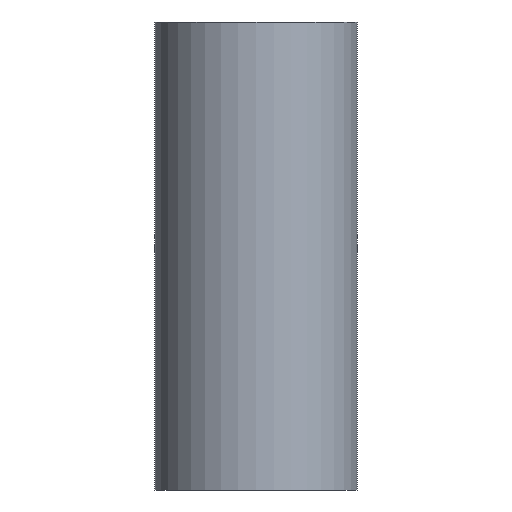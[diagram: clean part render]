
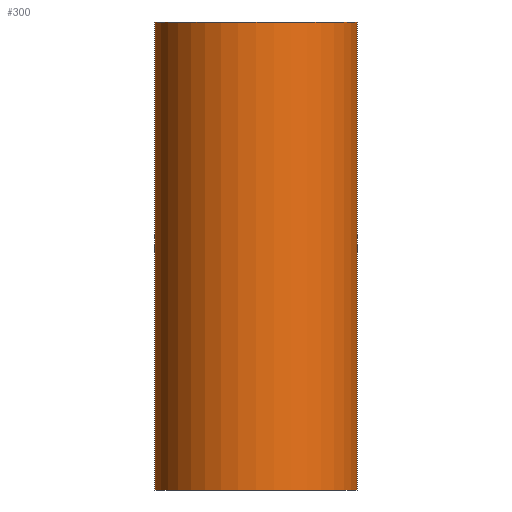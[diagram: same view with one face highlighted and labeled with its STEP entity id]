
A CAD part, front view. The second image highlights one B-rep face of the part: STEP entity #300.
In plain terms, the highlighted cylindrical face has radius 6.5 mm (diameter 13 mm), a partial arc.
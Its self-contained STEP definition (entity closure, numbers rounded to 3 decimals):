
#3 = CARTESIAN_POINT ( 'NONE',  ( 0., 0., 30. ) ) ;
#12 = CARTESIAN_POINT ( 'NONE',  ( 6.5, 0., 30. ) ) ;
#23 = EDGE_LOOP ( 'NONE', ( #207, #227, #27, #46 ) ) ;
#24 = EDGE_CURVE ( 'NONE', #174, #81, #208, .T. ) ;
#27 = ORIENTED_EDGE ( 'NONE', *, *, #97, .T. ) ;
#29 = LINE ( 'NONE', #167, #141 ) ;
#31 = LINE ( 'NONE', #76, #206 ) ;
#32 = FACE_OUTER_BOUND ( 'NONE', #23, .T. ) ;
#43 = CYLINDRICAL_SURFACE ( 'NONE', #146, 6.5 ) ;
#46 = ORIENTED_EDGE ( 'NONE', *, *, #108, .T. ) ;
#76 = CARTESIAN_POINT ( 'NONE',  ( 6.5, 0., 30. ) ) ;
#81 = VERTEX_POINT ( 'NONE', #12 ) ;
#95 = CARTESIAN_POINT ( 'NONE',  ( -6.5, 0., 30. ) ) ;
#97 = EDGE_CURVE ( 'NONE', #174, #127, #29, .T. ) ;
#99 = CARTESIAN_POINT ( 'NONE',  ( 6.5, 0., 0. ) ) ;
#108 = EDGE_CURVE ( 'NONE', #127, #153, #232, .T. ) ;
#119 = DIRECTION ( 'NONE',  ( 0., 0., -1. ) ) ;
#127 = VERTEX_POINT ( 'NONE', #179 ) ;
#131 = EDGE_CURVE ( 'NONE', #81, #153, #31, .T. ) ;
#140 = DIRECTION ( 'NONE',  ( 0., 0., -1. ) ) ;
#141 = VECTOR ( 'NONE', #140, 1000. ) ;
#146 = AXIS2_PLACEMENT_3D ( 'NONE', #3, #301, #287 ) ;
#153 = VERTEX_POINT ( 'NONE', #99 ) ;
#167 = CARTESIAN_POINT ( 'NONE',  ( -6.5, 0., 30. ) ) ;
#174 = VERTEX_POINT ( 'NONE', #95 ) ;
#179 = CARTESIAN_POINT ( 'NONE',  ( -6.5, 0., 0. ) ) ;
#187 = DIRECTION ( 'NONE',  ( 0., 0., 1. ) ) ;
#189 = CARTESIAN_POINT ( 'NONE',  ( 0., 0., 0. ) ) ;
#197 = AXIS2_PLACEMENT_3D ( 'NONE', #189, #187, #253 ) ;
#206 = VECTOR ( 'NONE', #119, 1000. ) ;
#207 = ORIENTED_EDGE ( 'NONE', *, *, #131, .F. ) ;
#208 = CIRCLE ( 'NONE', #257, 6.5 ) ;
#220 = DIRECTION ( 'NONE',  ( 1., 0., 0. ) ) ;
#227 = ORIENTED_EDGE ( 'NONE', *, *, #24, .F. ) ;
#232 = CIRCLE ( 'NONE', #197, 6.5 ) ;
#241 = CARTESIAN_POINT ( 'NONE',  ( 0., 0., 30. ) ) ;
#247 = DIRECTION ( 'NONE',  ( 0., 0., 1. ) ) ;
#253 = DIRECTION ( 'NONE',  ( 1., 0., 0. ) ) ;
#257 = AXIS2_PLACEMENT_3D ( 'NONE', #241, #247, #220 ) ;
#287 = DIRECTION ( 'NONE',  ( -1., 0., 0. ) ) ;
#300 = ADVANCED_FACE ( 'NONE', ( #32 ), #43, .T. ) ;
#301 = DIRECTION ( 'NONE',  ( 0., 0., -1. ) ) ;
